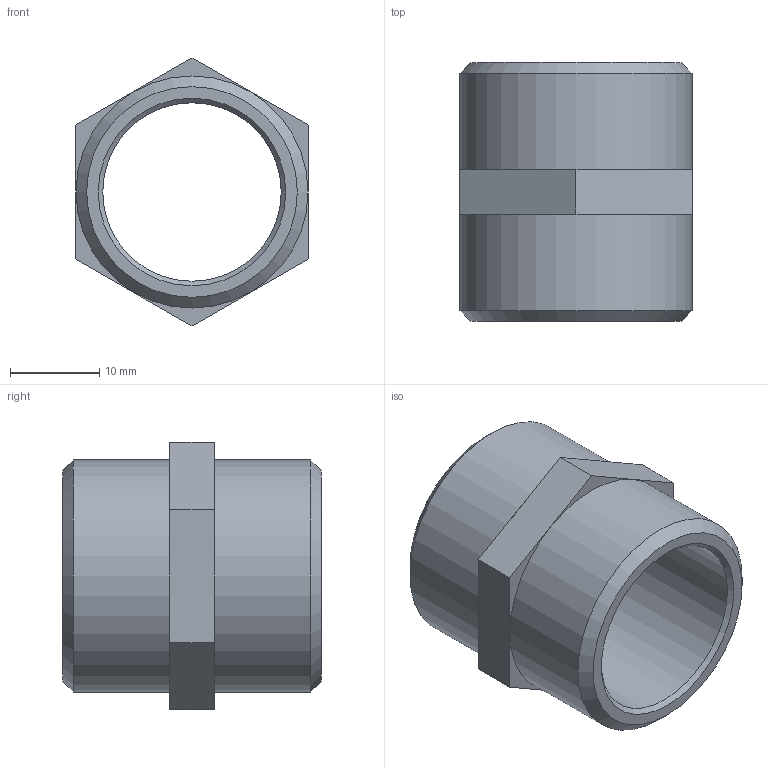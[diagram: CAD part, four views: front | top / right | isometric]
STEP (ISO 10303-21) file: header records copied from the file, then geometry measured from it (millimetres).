
FILE_DESCRIPTION(('STEP AP203'), '1');
FILE_NAME('ÂÐ.753136.003 - VTr.582.N.0005 Íèïïåëü G3-4', '2024-07-05T12:00:13', ('Boss'), (''), 'C3D Converter', 'C3D Toolkit', '');
FILE_SCHEMA(('CONFIG_CONTROL_DESIGN'));
Length unit declared in the file: millimetre
Products named in the file (1): ВР.753136.003
Bounding box: 26 x 29 x 30.02 mm (x, y, z)
Volume: 6428.9 mm3; surface area: 4620.6 mm2
Topology: 1 solids, 1 shells, 27 faces, 57 edges, 32 vertices
Faces by surface type: plane 20, cone 4, cylinder 3
Full cylindrical faces by diameter (mm): 20 x1, 26 x2
Entity records: 707 total; most frequent: DIRECTION 126, CARTESIAN_POINT 110, ORIENTED_EDGE 100, EDGE_CURVE 50, AXIS2_PLACEMENT_3D 48, EDGE_LOOP 36, VERTEX_POINT 32, LINE 30
